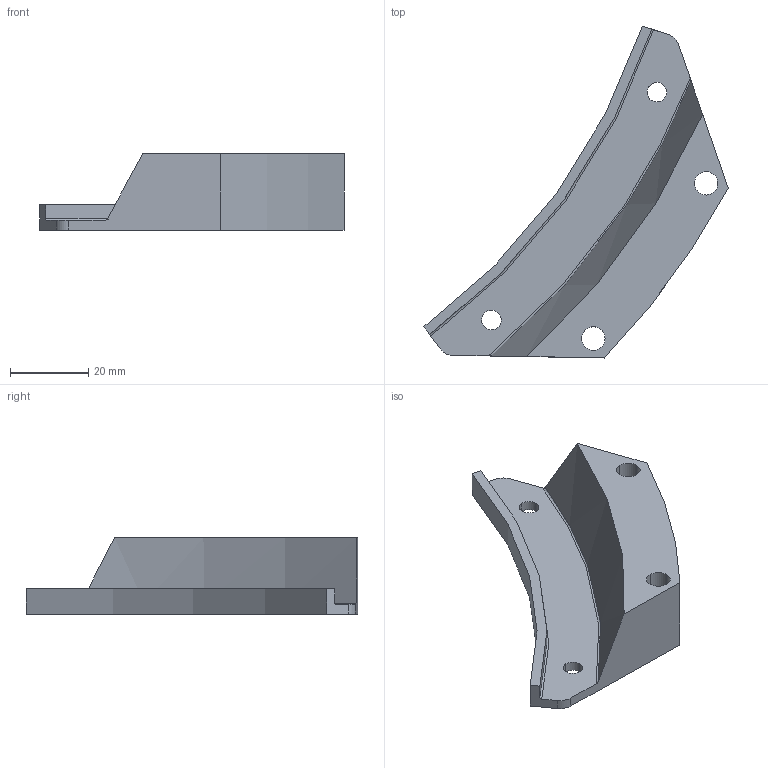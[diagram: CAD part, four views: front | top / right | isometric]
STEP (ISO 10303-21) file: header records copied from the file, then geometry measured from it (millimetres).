
FILE_DESCRIPTION(('CATIA V5 STEP Exchange'),'2;1');
FILE_NAME('D:\交接\张长江\21-Benz H6\光华荣昌转盘数据\H6 转盘\转盘用整椅数据 A9609109920\sample\H6 转盘夏季测试样件方案_20240617\样件数据\钣金件\SHT0017294-6 转盘上板防脱钩.stp','2024-06-19T06:05:26+00:00',('none'),('none'),'CATIA Version 5 Release 20 GA (IN-10)','CATIA V5 STEP AP203 Edition 2','none');
FILE_SCHEMA(('AP203_CONFIGURATION_CONTROLLED_3D_DESIGN_OF_MECHANICAL_PARTS_AND_ASSEMBLIES_MIM_LF { 1 0 10303 403 2 1 2}'));
Length unit declared in the file: millimetre
Products named in the file (1): SHT0017294-6
Bounding box: 77.58 x 84.71 x 19.5 mm (x, y, z)
Volume: 27040.7 mm3; surface area: 10754 mm2
Topology: 1 solids, 1 shells, 33 faces, 93 edges, 62 vertices
Faces by surface type: cylinder 21, plane 9, bspline 2, torus 1
Entity records: 1225 total; most frequent: CARTESIAN_POINT 389, ORIENTED_EDGE 186, DIRECTION 126, EDGE_CURVE 93, VERTEX_POINT 62, AXIS2_PLACEMENT_3D 60, EDGE_LOOP 41, VECTOR 36
